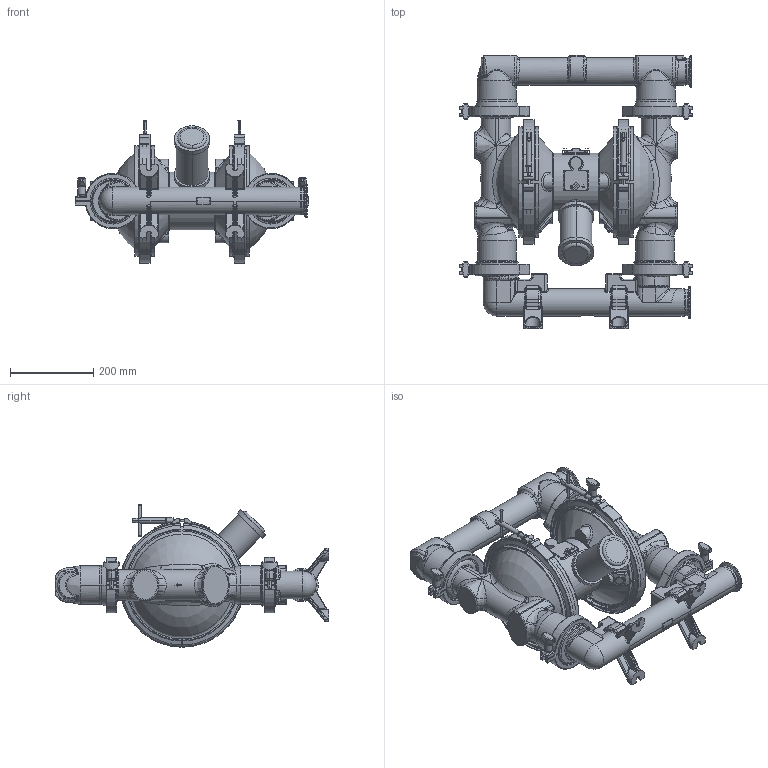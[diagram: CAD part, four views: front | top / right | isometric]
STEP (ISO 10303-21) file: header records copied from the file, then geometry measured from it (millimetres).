
FILE_DESCRIPTION((''),'2;1');
FILE_NAME('FA3244-EN-D_PRT','2022-02-14T15:05:53',('qtmwp1'),(''),'CREO PARAMETRIC BY PTC INC, 2021072','CREO PARAMETRIC BY PTC INC, 2021072','');
FILE_SCHEMA(('CONFIG_CONTROL_DESIGN'));
Length unit declared in the file: inch
Products named in the file (1): FA3244-EN-D_PRT
Bounding box: 563.06 x 659.05 x 343.13 mm (x, y, z)
Surface area: 1702265.6 mm2 (no closed solid volume)
Topology: 0 solids, 109 shells, 1762 faces, 5378 edges, 3497 vertices
Faces by surface type: cylinder 520, plane 411, torus 351, bspline 351, cone 112, extrusion 12, sphere 5
Entity records: 86643 total; most frequent: CARTESIAN_POINT 43068, ORIENTED_EDGE 8817, DIRECTION 8581, EDGE_CURVE 5377, VERTEX_POINT 3497, AXIS2_PLACEMENT_3D 3447, CIRCLE 2036, EDGE_LOOP 1762
